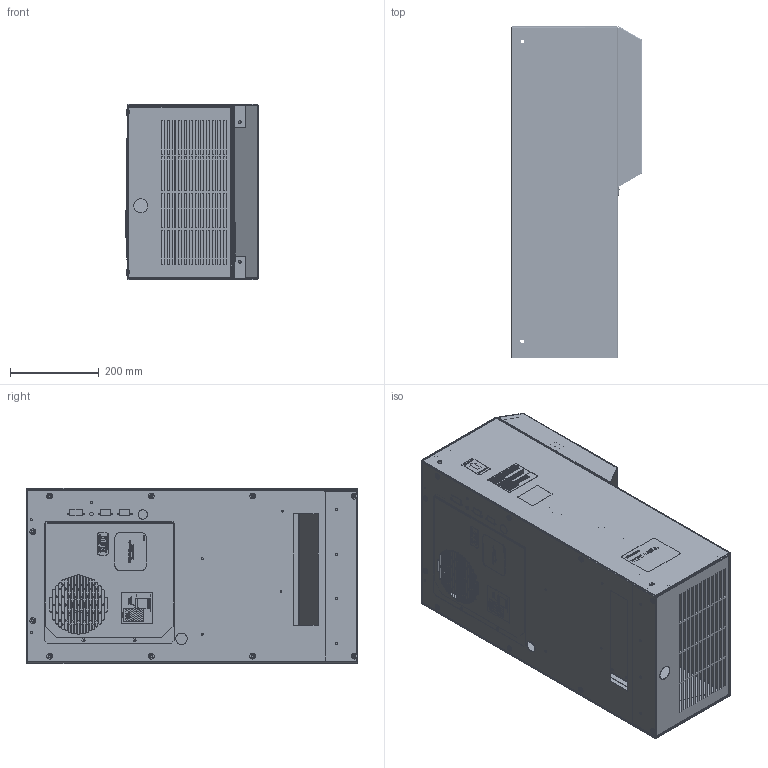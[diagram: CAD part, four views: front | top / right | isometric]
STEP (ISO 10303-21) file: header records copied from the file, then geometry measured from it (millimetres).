
FILE_DESCRIPTION (( 'STEP AP203' ), '1' );
FILE_NAME ('DTS 3161-81.STEP', '2017-11-29T14:24:14', ( '' ), ( '' ), 'SwSTEP 2.0', 'SolidWorks 2015', '' );
FILE_SCHEMA (( 'CONFIG_CONTROL_DESIGN' ));
Length unit declared in the file: millimetre
Products named in the file (15): DTS 3161-81; US-085110130_085110130; 085110140; 885000105_885000105; 30099-051_802005048; 885000008; 30099-052_802005053; 085110180; 020140030_020140030; 885000091_885000091; 30099-050_802002075; 015080031; 30099-024_002002129; 30099-053_802005052; 085110150
Assembly tree (23 placements, depth 2):
  DTS 3161-81
    30099-051_802005048
    30099-052_802005053
    020140030_020140030  x10
    30099-050_802002075
    30099-024_002002129
    085110150
    US-085110130_085110130
    085110140
    885000105_885000105
    885000008
    085110180
    885000091_885000091
    015080031
    30099-053_802005052
Bounding box: 297.17 x 746.69 x 395.51 mm (x, y, z)
Volume: 2085812.8 mm3; surface area: 3721524.4 mm2
Topology: 55 solids, 55 shells, 9309 faces, 24963 edges, 16508 vertices
Faces by surface type: plane 5451, bspline 2725, cylinder 1023, cone 110
Entity records: 469157 total; most frequent: CARTESIAN_POINT 261973, ORIENTED_EDGE 47532, DIRECTION 32059, EDGE_CURVE 23766, LINE 16465, VECTOR 16465, VERTEX_POINT 15734, EDGE_LOOP 10244
